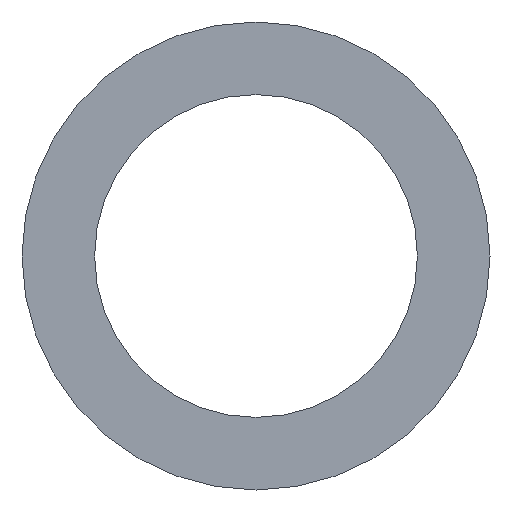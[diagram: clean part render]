
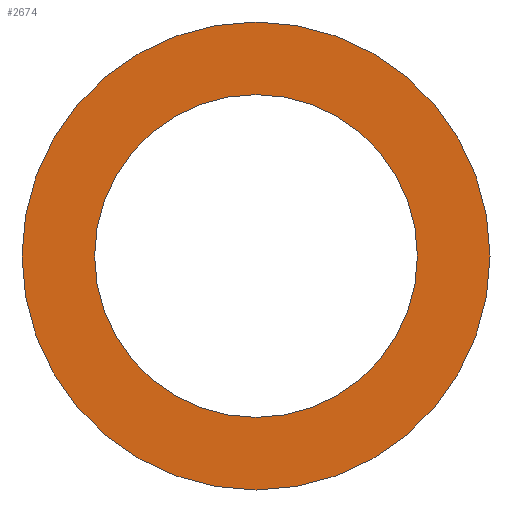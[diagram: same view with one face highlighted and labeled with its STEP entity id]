
A CAD part, front view. The second image highlights one B-rep face of the part: STEP entity #2674.
In plain terms, the highlighted planar face has unit normal (0, -1, 0).
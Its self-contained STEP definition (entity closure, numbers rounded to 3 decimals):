
#135 = CARTESIAN_POINT ( 'NONE',  ( 0., -22., 0. ) ) ;
#265 = ORIENTED_EDGE ( 'NONE', *, *, #1445, .F. ) ;
#515 = CARTESIAN_POINT ( 'NONE',  ( 0., -22., -50. ) ) ;
#517 = VERTEX_POINT ( 'NONE', #1009 ) ;
#682 = FACE_OUTER_BOUND ( 'NONE', #1358, .T. ) ;
#692 = DIRECTION ( 'NONE',  ( 0., 0., -1. ) ) ;
#733 = DIRECTION ( 'NONE',  ( 0., -1., 0. ) ) ;
#935 = VERTEX_POINT ( 'NONE', #2967 ) ;
#944 = EDGE_CURVE ( 'NONE', #517, #1210, #2849, .T. ) ;
#1007 = DIRECTION ( 'NONE',  ( 0., -1., 0. ) ) ;
#1009 = CARTESIAN_POINT ( 'NONE',  ( 0., -22., 50. ) ) ;
#1030 = EDGE_CURVE ( 'NONE', #935, #3411, #1169, .T. ) ;
#1134 = EDGE_LOOP ( 'NONE', ( #265, #1375 ) ) ;
#1169 = CIRCLE ( 'NONE', #3092, 72.5 ) ;
#1210 = VERTEX_POINT ( 'NONE', #515 ) ;
#1277 = DIRECTION ( 'NONE',  ( 0., -1., 0. ) ) ;
#1358 = EDGE_LOOP ( 'NONE', ( #3279, #3633 ) ) ;
#1375 = ORIENTED_EDGE ( 'NONE', *, *, #944, .F. ) ;
#1445 = EDGE_CURVE ( 'NONE', #1210, #517, #3236, .T. ) ;
#1505 = PLANE ( 'NONE',  #1582 ) ;
#1526 = DIRECTION ( 'NONE',  ( 0., 0., -1. ) ) ;
#1563 = EDGE_CURVE ( 'NONE', #3411, #935, #1699, .T. ) ;
#1582 = AXIS2_PLACEMENT_3D ( 'NONE', #2372, #3523, #3552 ) ;
#1699 = CIRCLE ( 'NONE', #2150, 72.5 ) ;
#2150 = AXIS2_PLACEMENT_3D ( 'NONE', #3085, #733, #3645 ) ;
#2210 = CARTESIAN_POINT ( 'NONE',  ( 0., -22., 72.5 ) ) ;
#2372 = CARTESIAN_POINT ( 'NONE',  ( 0., -22., 50. ) ) ;
#2505 = AXIS2_PLACEMENT_3D ( 'NONE', #2987, #3276, #692 ) ;
#2674 = ADVANCED_FACE ( 'NONE', ( #2683, #682 ), #1505, .F. ) ;
#2683 = FACE_BOUND ( 'NONE', #1134, .T. ) ;
#2849 = CIRCLE ( 'NONE', #2505, 50. ) ;
#2967 = CARTESIAN_POINT ( 'NONE',  ( 0., -22., -72.5 ) ) ;
#2987 = CARTESIAN_POINT ( 'NONE',  ( 0., -22., 0. ) ) ;
#3020 = CARTESIAN_POINT ( 'NONE',  ( 0., -22., 0. ) ) ;
#3085 = CARTESIAN_POINT ( 'NONE',  ( 0., -22., 0. ) ) ;
#3092 = AXIS2_PLACEMENT_3D ( 'NONE', #135, #1277, #3548 ) ;
#3236 = CIRCLE ( 'NONE', #3395, 50. ) ;
#3276 = DIRECTION ( 'NONE',  ( 0., -1., 0. ) ) ;
#3279 = ORIENTED_EDGE ( 'NONE', *, *, #1030, .T. ) ;
#3395 = AXIS2_PLACEMENT_3D ( 'NONE', #3020, #1007, #1526 ) ;
#3411 = VERTEX_POINT ( 'NONE', #2210 ) ;
#3523 = DIRECTION ( 'NONE',  ( 0., 1., 0. ) ) ;
#3548 = DIRECTION ( 'NONE',  ( 0., 0., -1. ) ) ;
#3552 = DIRECTION ( 'NONE',  ( 0., 0., 1. ) ) ;
#3633 = ORIENTED_EDGE ( 'NONE', *, *, #1563, .T. ) ;
#3645 = DIRECTION ( 'NONE',  ( 0., 0., -1. ) ) ;
